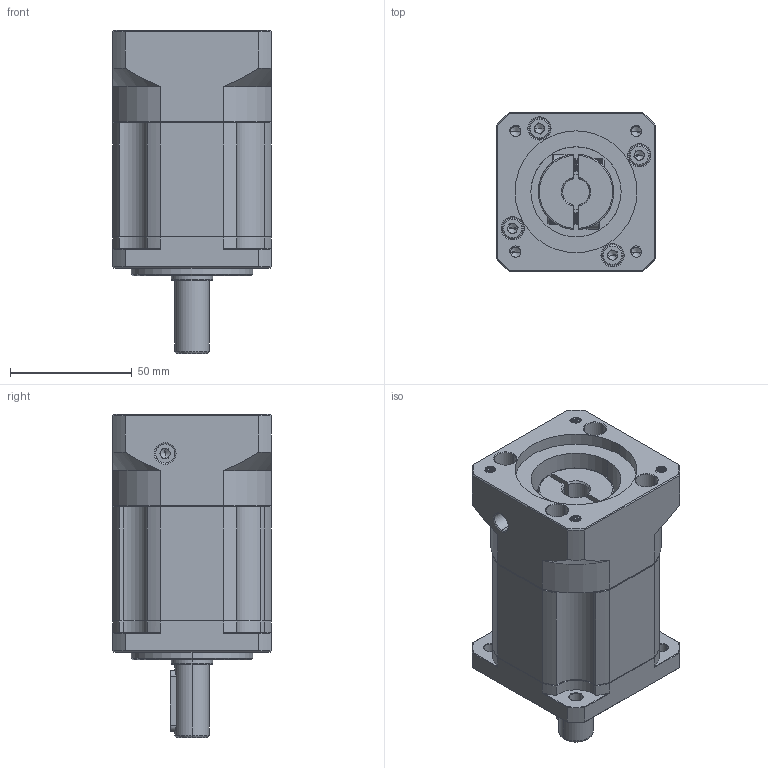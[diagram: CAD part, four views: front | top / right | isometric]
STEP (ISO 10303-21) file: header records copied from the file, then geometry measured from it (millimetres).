
FILE_DESCRIPTION (( 'STEP AP214' ), '1' );
FILE_NAME ('ZB60-D14-L2-11-50-70-M5.STEP', '2022-04-17T07:32:12', ( '' ), ( 'Microsoft' ), 'SwSTEP 2.0', 'SolidWorks 2016', '' );
FILE_SCHEMA (( 'AUTOMOTIVE_DESIGN' ));
Length unit declared in the file: millimetre
Products named in the file (1): ZB60-D14-L2-11-50-70-M5
Bounding box: 65 x 65 x 132.5 mm (x, y, z)
Volume: 329542.2 mm3; surface area: 58811.6 mm2
Topology: 6 solids, 6 shells, 1886 faces, 5005 edges, 3202 vertices
Faces by surface type: plane 879, cylinder 393, bspline 299, cone 279, torus 36
Entity records: 101669 total; most frequent: CARTESIAN_POINT 36516, ORIENTED_EDGE 9950, DIRECTION 8147, EDGE_CURVE 4975, VERTEX_POINT 3202, VECTOR 3033, LINE 3033, AXIS2_PLACEMENT_3D 2557
